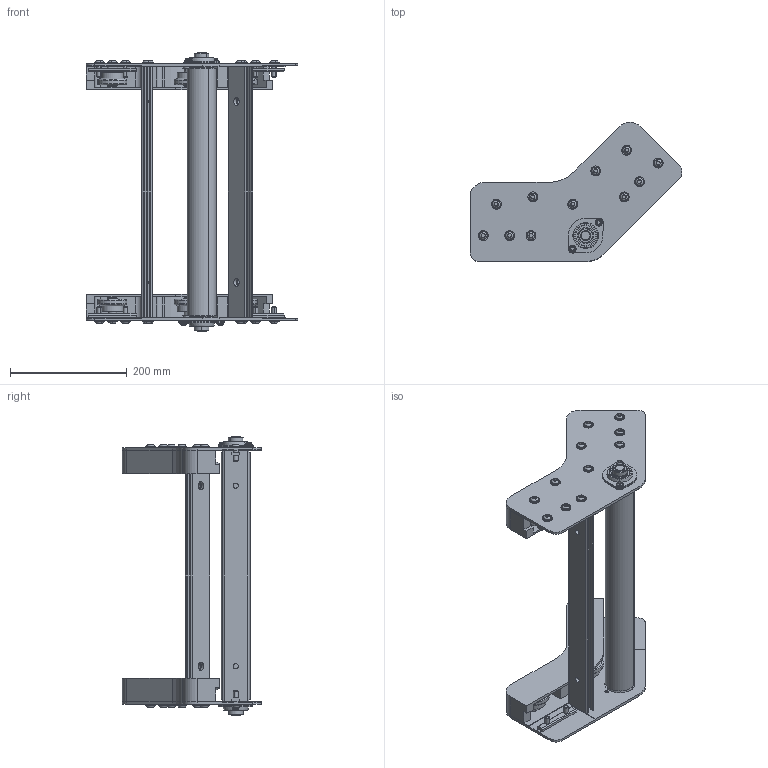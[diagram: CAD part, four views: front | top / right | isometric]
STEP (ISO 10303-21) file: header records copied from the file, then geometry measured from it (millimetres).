
FILE_DESCRIPTION (( 'STEP AP203' ), '1' );
FILE_NAME ('084.050.KA.45.400.STEP', '2019-07-30T06:46:53', ( '' ), ( '' ), 'SwSTEP 2.0', 'SolidWorks 2018', '' );
FILE_SCHEMA (( 'CONFIG_CONTROL_DESIGN' ));
Length unit declared in the file: millimetre
Products named in the file (18): Circlip DIN 471 - 15 x 1_Circlip DIN 471 - 15 x 1; 084.830.102_Default<A macchina>; 084.050.KA.45.400; VITI TESTA BOMBATA ISO 730 INOX_M8x25 ISO 7380 INOX; CUSCINETTI A SFERE_6002-2Z; 084.050.KA.45.400.002_Default<A macchina>; 084.050.KA.45.400.001_Default<A macchina>; RONDELLE UNI 6592_8.4x17 UNI 6592; 084.821.102; 084.811.004; 084.302.016; 084.821.103; VITI TESTA BOMBATA ISO 730 INOX_M6x10 ISO 7380 INOX; 084.830.101_Default<A macchina>; 084.821.105; SBPFL 203; VITI TESTA BOMBATA ISO 730 INOX_M8x30 ISO 7380 INOX; RONDELLE UNI 6592_6.4x12.5 UNI 6592
Assembly tree (109 placements, depth 2):
  084.050.KA.45.400
    084.830.102_Default<A macchina>  x2
    084.830.101_Default<A macchina>  x2
    084.050.KA.45.400.001_Default<A macchina>
    084.050.KA.45.400.002_Default<A macchina>  x2
    084.821.103  x6
    084.821.105  x6
    084.302.016  x4
    084.811.004  x2
    CUSCINETTI A SFERE_6002-2Z  x12
    SBPFL 203  x2
    VITI TESTA BOMBATA ISO 730 INOX_M8x30 ISO 7380 INOX  x10
    VITI TESTA BOMBATA ISO 730 INOX_M8x25 ISO 7380 INOX  x12
    RONDELLE UNI 6592_8.4x17 UNI 6592  x22
    VITI TESTA BOMBATA ISO 730 INOX_M6x10 ISO 7380 INOX  x4
    RONDELLE UNI 6592_6.4x12.5 UNI 6592  x4
    Circlip DIN 471 - 15 x 1_Circlip DIN 471 - 15 x 1  x12
    084.821.102  x6
Bounding box: 362.33 x 237.69 x 477 mm (x, y, z)
Volume: 2094909.9 mm3; surface area: 966695.2 mm2
Topology: 113 solids, 113 shells, 2195 faces, 5161 edges, 3336 vertices
Faces by surface type: cylinder 915, plane 888, cone 192, torus 180, sphere 20
Entity records: 21544 total; most frequent: DIRECTION 3220, CARTESIAN_POINT 3170, ORIENTED_EDGE 2716, EDGE_CURVE 1358, AXIS2_PLACEMENT_3D 1234, VERTEX_POINT 888, VECTOR 752, LINE 752
